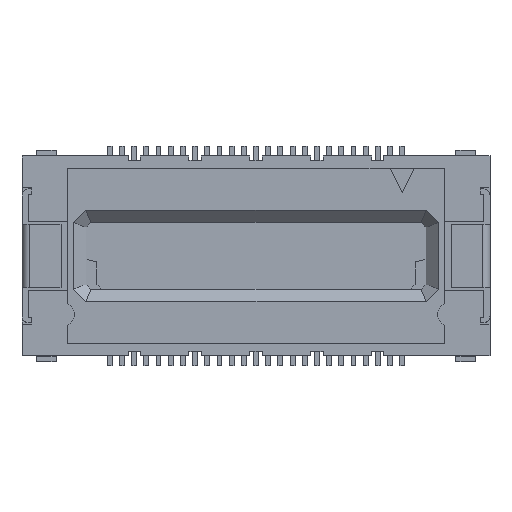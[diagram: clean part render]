
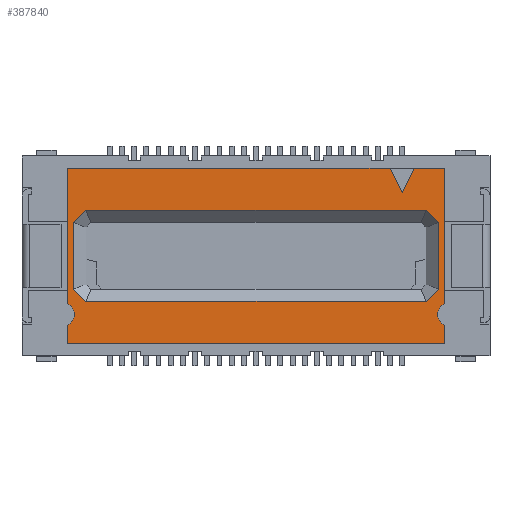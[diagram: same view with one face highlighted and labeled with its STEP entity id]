
A CAD part, top view. The second image highlights one B-rep face of the part: STEP entity #387840.
In plain terms, the highlighted planar face has unit normal (0, 0, 1).
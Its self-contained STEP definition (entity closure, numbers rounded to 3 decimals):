
#2320=CARTESIAN_POINT('',(20.034,-0.955,4.));
#2330=VERTEX_POINT('',#2320);
#2360=CARTESIAN_POINT('',(19.787,-1.202,4.));
#2370=DIRECTION('',(-0.707,-0.707,0.));
#2380=VECTOR('',#2370,1.);
#2390=LINE('',#2360,#2380);
#2400=CARTESIAN_POINT('',(19.541,-1.448,4.));
#2410=VERTEX_POINT('',#2400);
#2420=EDGE_CURVE('',#2330,#2410,#2390,.T.);
#21090=CARTESIAN_POINT('',(19.541,2.292,4.));
#21100=VERTEX_POINT('',#21090);
#21130=CARTESIAN_POINT('',(19.787,2.045,4.));
#21140=DIRECTION('',(0.707,-0.707,0.));
#21150=VECTOR('',#21140,1.);
#21160=LINE('',#21130,#21150);
#21170=CARTESIAN_POINT('',(20.034,1.799,4.));
#21180=VERTEX_POINT('',#21170);
#21190=EDGE_CURVE('',#21100,#21180,#21160,.T.);
#53560=CARTESIAN_POINT('',(5.576,2.292,4.));
#53570=VERTEX_POINT('',#53560);
#53600=CARTESIAN_POINT('',(-4.446,2.292,4.));
#53610=DIRECTION('',(1.,0.,0.));
#53620=VECTOR('',#53610,1.);
#53630=LINE('',#53600,#53620);
#53640=EDGE_CURVE('',#53570,#21100,#53630,.T.);
#62340=CARTESIAN_POINT('',(20.309,-1.52,4.));
#62350=VERTEX_POINT('',#62340);
#62510=CARTESIAN_POINT('',(20.309,-2.436,4.));
#62520=VERTEX_POINT('',#62510);
#62550=CARTESIAN_POINT('',(20.509,-1.978,4.));
#62560=DIRECTION('',(0.,0.,1.));
#62570=DIRECTION('',(1.,0.,0.));
#62580=AXIS2_PLACEMENT_3D('',#62550,#62560,#62570);
#62590=CIRCLE('',#62580,0.5);
#62600=EDGE_CURVE('',#62350,#62520,#62590,.T.);
#62740=CARTESIAN_POINT('',(20.309,-3.178,4.));
#62750=VERTEX_POINT('',#62740);
#62800=CARTESIAN_POINT('',(20.309,0.,4.));
#62810=DIRECTION('',(0.,-1.,0.));
#62820=VECTOR('',#62810,1.);
#62830=LINE('',#62800,#62820);
#62840=EDGE_CURVE('',#62520,#62750,#62830,.T.);
#67940=CARTESIAN_POINT('',(17.048,0.,4.));
#67950=DIRECTION('',(0.447,0.894,0.));
#67960=VECTOR('',#67950,1.);
#67970=LINE('',#67940,#67960);
#67980=CARTESIAN_POINT('',(18.559,3.022,4.));
#67990=VERTEX_POINT('',#67980);
#68000=CARTESIAN_POINT('',(19.059,4.022,4.));
#68010=VERTEX_POINT('',#68000);
#68020=EDGE_CURVE('',#67990,#68010,#67970,.T.);
#236790=CARTESIAN_POINT('',(20.07,0.,4.));
#236800=DIRECTION('',(0.447,-0.894,0.));
#236810=VECTOR('',#236800,1.);
#236820=LINE('',#236790,#236810);
#236830=CARTESIAN_POINT('',(18.059,4.022,4.));
#236840=VERTEX_POINT('',#236830);
#236850=EDGE_CURVE('',#236840,#67990,#236820,.T.);
#259430=CARTESIAN_POINT('',(4.809,-3.178,4.));
#259440=VERTEX_POINT('',#259430);
#259470=CARTESIAN_POINT('',(22.617,-3.178,4.));
#259480=DIRECTION('',(-1.,0.,0.));
#259490=VECTOR('',#259480,1.);
#259500=LINE('',#259470,#259490);
#259510=EDGE_CURVE('',#62750,#259440,#259500,.T.);
#260290=CARTESIAN_POINT('',(5.084,1.799,4.));
#260300=VERTEX_POINT('',#260290);
#260330=CARTESIAN_POINT('',(5.33,2.045,4.));
#260340=DIRECTION('',(-0.707,-0.707,0.));
#260350=VECTOR('',#260340,1.);
#260360=LINE('',#260330,#260350);
#260370=EDGE_CURVE('',#53570,#260300,#260360,.T.);
#268100=CARTESIAN_POINT('',(20.309,0.,4.));
#268110=DIRECTION('',(0.,-1.,0.));
#268120=VECTOR('',#268110,1.);
#268130=LINE('',#268100,#268120);
#268140=CARTESIAN_POINT('',(20.309,4.022,4.));
#268150=VERTEX_POINT('',#268140);
#268160=EDGE_CURVE('',#268150,#62350,#268130,.T.);
#327910=CARTESIAN_POINT('',(20.034,0.422,4.));
#327920=DIRECTION('',(0.,1.,0.));
#327930=VECTOR('',#327920,1.);
#327940=LINE('',#327910,#327930);
#327950=EDGE_CURVE('',#2330,#21180,#327940,.T.);
#386390=CARTESIAN_POINT('',(5.084,0.422,4.));
#386400=DIRECTION('',(0.,1.,0.));
#386410=VECTOR('',#386400,1.);
#386420=LINE('',#386390,#386410);
#386430=CARTESIAN_POINT('',(5.084,-0.955,4.));
#386440=VERTEX_POINT('',#386430);
#386450=EDGE_CURVE('',#386440,#260300,#386420,.T.);
#387080=CARTESIAN_POINT('',(5.576,-1.448,4.));
#387090=VERTEX_POINT('',#387080);
#387140=CARTESIAN_POINT('',(-8.081,-1.448,4.));
#387150=DIRECTION('',(-1.,0.,0.));
#387160=VECTOR('',#387150,1.);
#387170=LINE('',#387140,#387160);
#387180=EDGE_CURVE('',#2410,#387090,#387170,.T.);
#387230=CARTESIAN_POINT('',(3.809,-2.313,4.));
#387240=DIRECTION('',(0.,0.,1.));
#387250=DIRECTION('',(1.,0.,0.));
#387260=AXIS2_PLACEMENT_3D('',#387230,#387240,#387250);
#387270=PLANE('',#387260);
#387280=ORIENTED_EDGE('',*,*,#236850,.F.);
#387290=ORIENTED_EDGE('',*,*,#68020,.F.);
#387300=CARTESIAN_POINT('',(5.,4.022,4.));
#387310=DIRECTION('',(-1.,0.,0.));
#387320=VECTOR('',#387310,1.);
#387330=LINE('',#387300,#387320);
#387340=EDGE_CURVE('',#268150,#68010,#387330,.T.);
#387350=ORIENTED_EDGE('',*,*,#387340,.T.);
#387360=ORIENTED_EDGE('',*,*,#268160,.F.);
#387370=ORIENTED_EDGE('',*,*,#62600,.F.);
#387380=ORIENTED_EDGE('',*,*,#62840,.F.);
#387390=ORIENTED_EDGE('',*,*,#259510,.F.);
#387400=CARTESIAN_POINT('',(4.809,0.,4.));
#387410=DIRECTION('',(0.,1.,0.));
#387420=VECTOR('',#387410,1.);
#387430=LINE('',#387400,#387420);
#387440=CARTESIAN_POINT('',(4.809,-2.436,4.));
#387450=VERTEX_POINT('',#387440);
#387460=EDGE_CURVE('',#259440,#387450,#387430,.T.);
#387470=ORIENTED_EDGE('',*,*,#387460,.F.);
#387480=CARTESIAN_POINT('',(4.609,-1.978,4.));
#387490=DIRECTION('',(0.,0.,-1.));
#387500=DIRECTION('',(-1.,0.,0.));
#387510=AXIS2_PLACEMENT_3D('',#387480,#387490,#387500);
#387520=CIRCLE('',#387510,0.5);
#387530=CARTESIAN_POINT('',(4.809,-1.52,4.));
#387540=VERTEX_POINT('',#387530);
#387550=EDGE_CURVE('',#387540,#387450,#387520,.T.);
#387560=ORIENTED_EDGE('',*,*,#387550,.T.);
#387570=CARTESIAN_POINT('',(4.809,4.022,4.));
#387580=VERTEX_POINT('',#387570);
#387590=EDGE_CURVE('',#387540,#387580,#387430,.T.);
#387600=ORIENTED_EDGE('',*,*,#387590,.F.);
#387610=CARTESIAN_POINT('',(27.5,4.022,4.));
#387620=DIRECTION('',(-1.,0.,0.));
#387630=VECTOR('',#387620,1.);
#387640=LINE('',#387610,#387630);
#387650=EDGE_CURVE('',#236840,#387580,#387640,.T.);
#387660=ORIENTED_EDGE('',*,*,#387650,.T.);
#387670=EDGE_LOOP('',(#387660,#387600,#387560,#387470,#387390,#387380,
#387370,#387360,#387350,#387290,#387280));
#387680=FACE_OUTER_BOUND('',#387670,.T.);
#387690=ORIENTED_EDGE('',*,*,#260370,.F.);
#387700=ORIENTED_EDGE('',*,*,#386450,.T.);
#387710=CARTESIAN_POINT('',(5.33,-1.202,4.));
#387720=DIRECTION('',(0.707,-0.707,0.));
#387730=VECTOR('',#387720,1.);
#387740=LINE('',#387710,#387730);
#387750=EDGE_CURVE('',#386440,#387090,#387740,.T.);
#387760=ORIENTED_EDGE('',*,*,#387750,.F.);
#387770=ORIENTED_EDGE('',*,*,#387180,.T.);
#387780=ORIENTED_EDGE('',*,*,#2420,.T.);
#387790=ORIENTED_EDGE('',*,*,#327950,.F.);
#387800=ORIENTED_EDGE('',*,*,#21190,.T.);
#387810=ORIENTED_EDGE('',*,*,#53640,.T.);
#387820=EDGE_LOOP('',(#387810,#387800,#387790,#387780,#387770,#387760,
#387700,#387690));
#387830=FACE_BOUND('',#387820,.T.);
#387840=ADVANCED_FACE('',(#387680,#387830),#387270,.T.);
